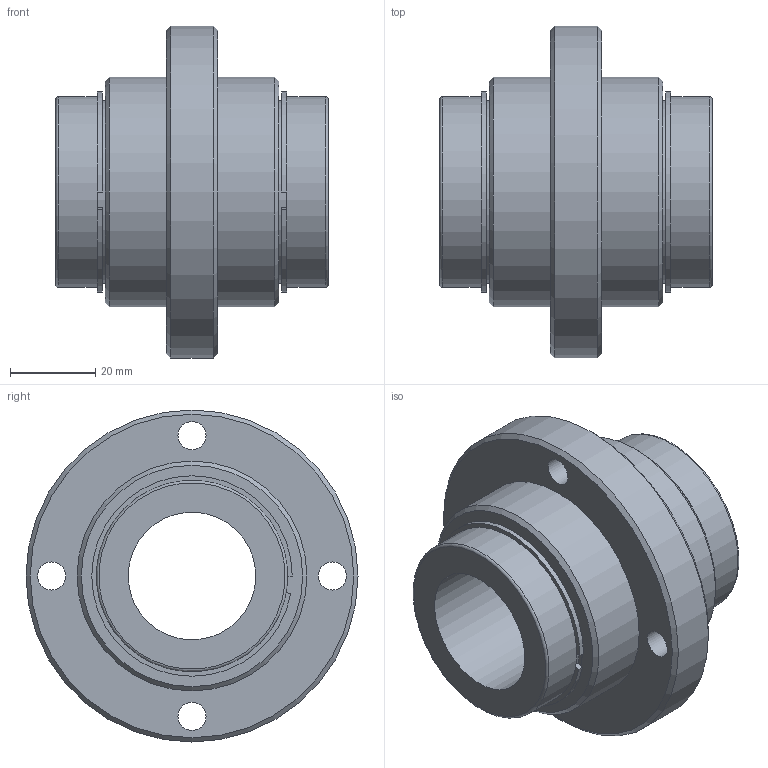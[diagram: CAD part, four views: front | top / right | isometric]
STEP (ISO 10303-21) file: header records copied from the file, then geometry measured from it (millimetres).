
FILE_DESCRIPTION(('STEP AP203'),'1');
FILE_NAME('//192.168.1.1/share/s-4 技術開発/s-4-4_CAD/s-4-4-3_見直し済み/008修正済み/PNCD/PNCD_TOP/PNCD-30VUU.step','2022-02-07T00:27:26',(' '),(' '),'Spatial InterOp 3D',' ',' ');
FILE_SCHEMA(('CONFIG_CONTROL_DESIGN'));
Length unit declared in the file: millimetre
Products named in the file (4): 1; 2; 3; 4
Bounding box: 64 x 78 x 78 mm (x, y, z)
Volume: 113035.1 mm3; surface area: 39302 mm2
Topology: 4 solids, 4 shells, 42 faces, 78 edges, 50 vertices
Faces by surface type: plane 18, cylinder 18, cone 4, torus 2
Full cylindrical faces by diameter (mm): 6.6 x4, 30 x1, 43 x2, 45 x4, 54 x2, 78 x1
Entity records: 1156 total; most frequent: DIRECTION 192, CARTESIAN_POINT 154, ORIENTED_EDGE 116, AXIS2_PLACEMENT_3D 88, EDGE_LOOP 80, FACE_OUTER_BOUND 58, EDGE_CURVE 58, VERTEX_POINT 50
